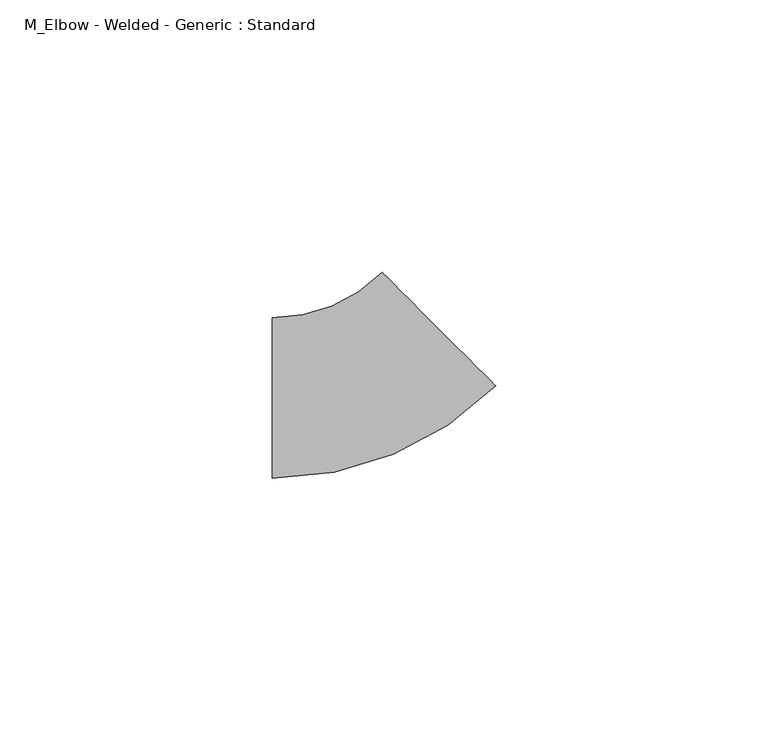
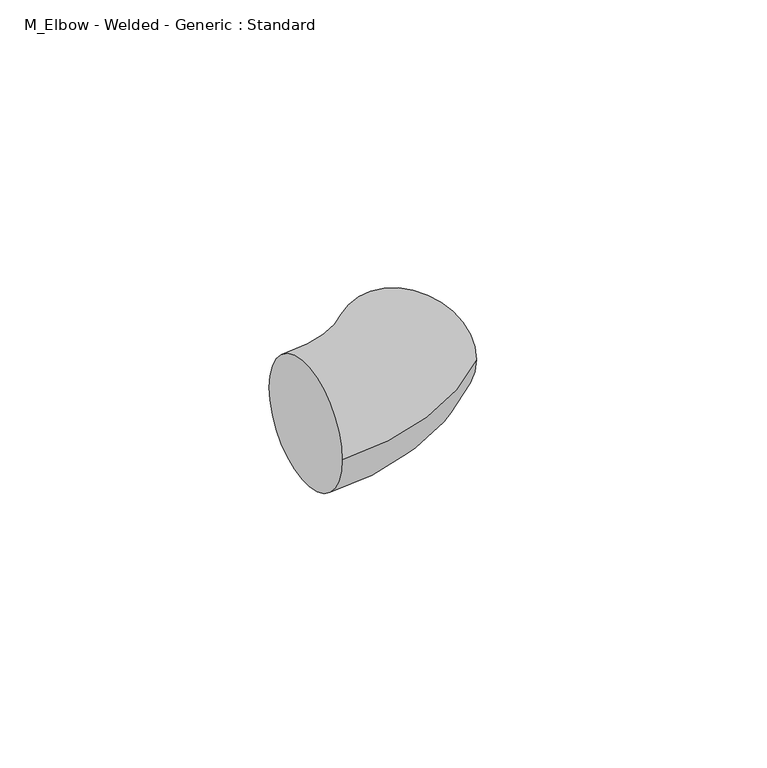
"""IFC4 building model written with IfcOpenShell, lengths in millimetres: pipe fitting geometry, M_Elbow - Welded - Generic : Standard."""

from ifc_helpers import new_model, si_unit, point, frame, origin, place, context, project, spatial, circle_curve, ellipse_curve, trimmed, source, transform, mapped, element, save
from ifc_brep_helpers import plane_surface, revolved_surface, advanced_brep


def m_elbow_welded_generic_standard_7d9b37db(model_context):
    return source(origin(), model_context, "Body", "AdvancedBrep", [
        advanced_brep(
        [(-17.8917187, -14.7089844, 0.0), (-17.8917187, 14.7089844, 0.0), (23.0521783, 2.2505331, 0.0), (2.2505331, 23.0521783, 0.0)],
        [
            (0, 1, circle_curve(frame((-17.8917187, 0.0, 0.0), z_axis=(-1.0, 0.0, 0.0), x_axis=(0.0, 1.0, 0.0)), 14.7089844)),
            (1, 0, circle_curve(frame((-17.8917187, 0.0, 0.0), z_axis=(-1.0, 0.0, 0.0), x_axis=(0.0, 1.0, 0.0)), 14.7089844)),
            (2, 3, circle_curve(frame((12.6513557, 12.6513557, 0.0), z_axis=(0.7071067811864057, 0.7071067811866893, 0.0), x_axis=(-0.7071067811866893, 0.7071067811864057, 0.0)), 14.7089844)),
            (3, 2, circle_curve(frame((12.6513557, 12.6513557, 0.0), z_axis=(0.7071067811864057, 0.7071067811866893, 0.0), x_axis=(-0.7071067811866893, 0.7071067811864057, 0.0)), 14.7089844)),
            (3, 1, circle_curve(frame((-17.8917187, 43.1944301, 0.0), z_axis=(0.0, 0.0, -1.0), x_axis=(0.0, -1.0, 0.0)), 28.4854457)),
            (0, 2, circle_curve(frame((-17.8917187, 43.1944301, 0.0), z_axis=(0.0, 0.0, 1.0), x_axis=(0.0, -1.0, 0.0)), 57.9034144)),
        ],
        [
            plane_surface(frame((-17.8917187, 0.0, 0.0), z_axis=(-1.0, 0.0, 0.0), x_axis=(0.0, 0.0, 1.0))),
            plane_surface(frame((12.6513557, 12.6513557, 0.0), z_axis=(0.7071067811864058, 0.7071067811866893, 0.0), x_axis=(0.0, 0.0, 1.0))),
            revolved_surface(trimmed(ellipse_curve(frame((-17.8917187, 0.0, 0.0), z_axis=(-1.0, 0.0, 0.0), x_axis=(0.0, 1.0, 0.0)), 14.7089844, 14.7089844), [point((-17.8917187, -14.7089844, 0.0))], [point((-17.8917187, 14.7089844, 0.0))], True, "CARTESIAN"), (-17.8917187, 43.1944301, 0.0), (0.0, 0.0, 1.0)),
            revolved_surface(trimmed(ellipse_curve(frame((-17.8917187, 0.0, 0.0), z_axis=(-1.0, 0.0, 0.0), x_axis=(0.0, 1.0, 0.0)), 14.7089844, 14.7089844), [point((-17.8917187, 14.7089844, 0.0))], [point((-17.8917187, -14.7089844, 0.0))], True, "CARTESIAN"), (-17.8917187, 43.1944301, 0.0), (0.0, 0.0, 1.0)),
        ],
        [
            (0, [[1, 2]]),
            (1, [[3, 4]]),
            (2, [[5, -1, 6, -4]]),
            (3, [[-6, -2, -5, -3]]),
        ],
    ),
    ])


if __name__ == "__main__":
    model = new_model("IFC4")
    model_context = context("Model", 3, world=origin())
    ifc_project = project(units=[si_unit("LENGTHUNIT", "METRE", prefix="MILLI")], contexts=[model_context])
    site = spatial("IfcSite", under=ifc_project)
    building = spatial("IfcBuilding", under=site)
    placement = place(None, origin())
    m_elbow_welded_generic_standard_shape = m_elbow_welded_generic_standard_7d9b37db(model_context)
    element("IfcPipeFitting", 1, ObjectType="M_Elbow - Welded - Generic : Standard", at=placement, inside=building, context=model_context, shape_type="MappedRepresentation", body=[
        mapped(m_elbow_welded_generic_standard_shape, transform((0.0, 0.0, 0.0), x_axis=(1.0, 0.0, 0.0), y_axis=(0.0, 1.0, 0.0), z_axis=(0.0, 0.0, 1.0))),
    ])
    save(model, "model.ifc")
